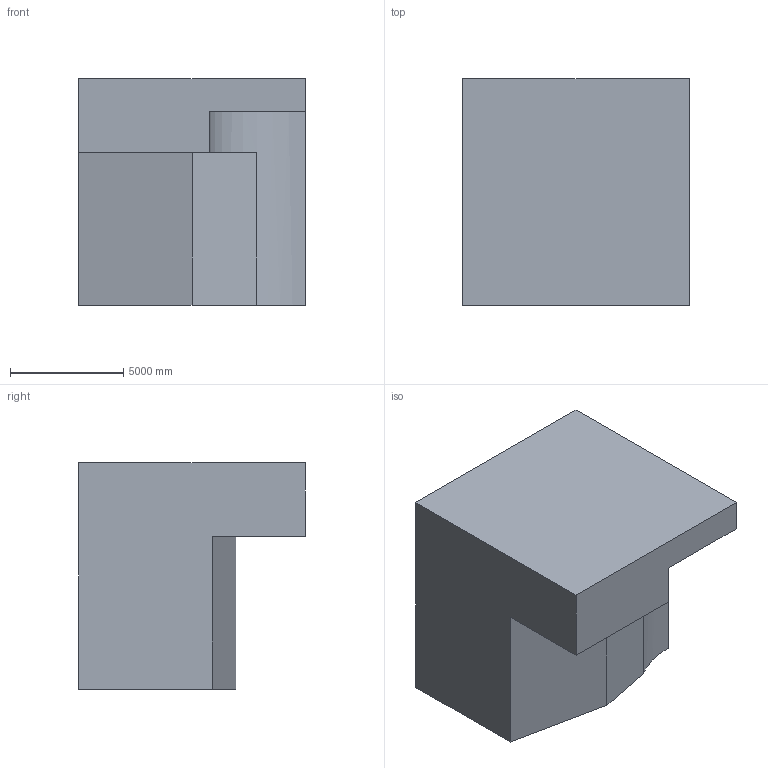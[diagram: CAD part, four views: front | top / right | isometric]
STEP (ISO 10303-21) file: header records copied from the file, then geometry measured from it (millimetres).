
FILE_DESCRIPTION (( 'STEP AP203' ), '1' );
FILE_NAME ('176.STEP', '2022-07-28T13:49:05', ( 'user' ), ( '' ), 'SwSTEP 2.0', 'SolidWorks 2021', '' );
FILE_SCHEMA (( 'CONFIG_CONTROL_DESIGN' ));
Length unit declared in the file: centimetre
Products named in the file (1): 176
Bounding box: 10000 x 10000 x 10000 mm (x, y, z)
Volume: 729979916671.1 mm3; surface area: 542236797.6 mm2
Topology: 1 solids, 1 shells, 11 faces, 27 edges, 18 vertices
Faces by surface type: plane 10, cylinder 1
Entity records: 401 total; most frequent: CARTESIAN_POINT 57, DIRECTION 54, ORIENTED_EDGE 54, EDGE_CURVE 27, LINE 24, VECTOR 24, VERTEX_POINT 18, AXIS2_PLACEMENT_3D 15
